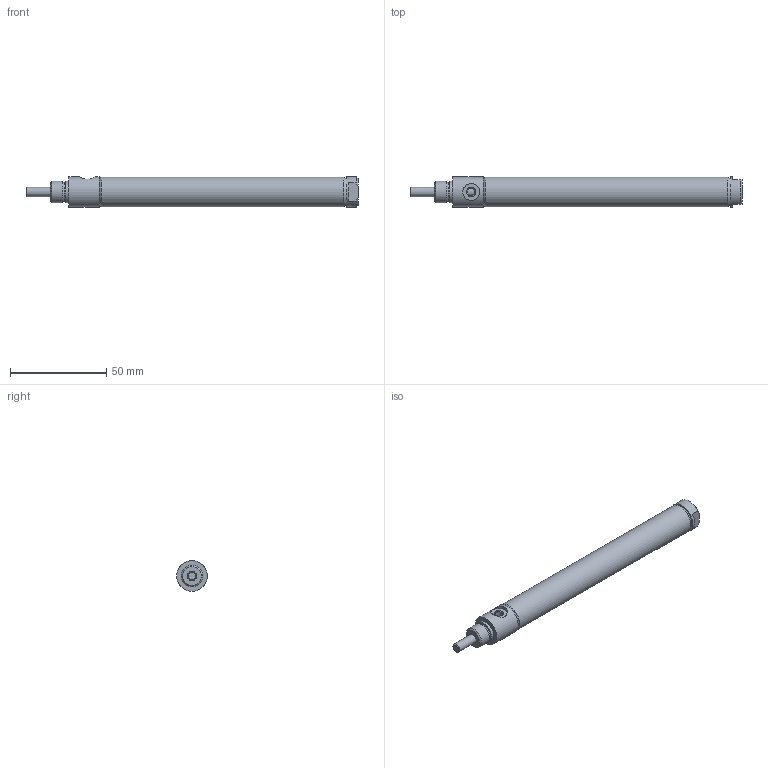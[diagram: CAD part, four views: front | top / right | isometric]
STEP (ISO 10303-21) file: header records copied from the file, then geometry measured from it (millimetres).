
FILE_DESCRIPTION( ( 'STEP AP214' ), '1' );
FILE_NAME( 'p:/temp/worker_443/temp/exporttempdir_2128_26_1jtSg/format_0/0563D01-04A.stp', '2020-05-07T12:56:14', ( 'License CC BY-ND 4.0' ), ( 'CADENAS' ), ' ', 'PARTsolutions', ' ' );
FILE_SCHEMA( ( 'AUTOMOTIVE_DESIGN { 1 0 10303 214 1 1 1 1 }' ) );
Length unit declared in the file: inch
Products named in the file (3): 0563D01-04A; _0563D01-04A-000b; _0563D01-04A-000r
Assembly tree (2 placements, depth 2):
  0563D01-04A
    _0563D01-04A-000b
    _0563D01-04A-000r
Bounding box: 172.24 x 15.88 x 15.88 mm (x, y, z)
Volume: 14442.7 mm3; surface area: 18055.3 mm2
Topology: 2 solids, 2 shells, 42 faces, 77 edges, 49 vertices
Faces by surface type: plane 18, cylinder 15, cone 9
Full cylindrical faces by diameter (mm): 3.967 x2, 4.775 x3, 4.826 x1, 8.738 x1, 9.601 x1, 11.1 x1, 11.112 x1, 14.287 x2, 15.392 x1, 15.875 x2
Entity records: 1446 total; most frequent: CARTESIAN_POINT 289, DIRECTION 176, ORIENTED_EDGE 106, AXIS2_PLACEMENT_3D 84, EDGE_LOOP 78, FACE_OUTER_BOUND 57, EDGE_CURVE 53, VERTEX_POINT 47
